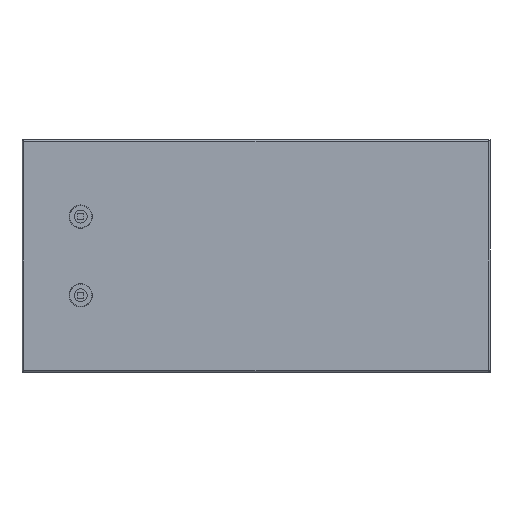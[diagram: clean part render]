
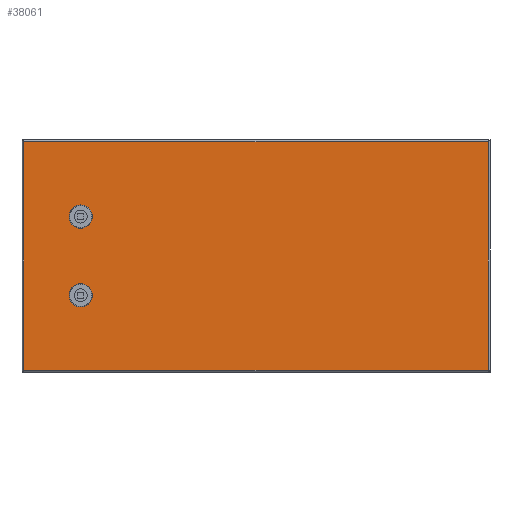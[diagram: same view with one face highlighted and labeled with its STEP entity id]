
A CAD part, top view. The second image highlights one B-rep face of the part: STEP entity #38061.
In plain terms, the highlighted planar face has unit normal (0, 0, 1).
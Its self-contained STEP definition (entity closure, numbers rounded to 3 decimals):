
#35626=CARTESIAN_POINT(' ',(591.7,145.2,0.));
#35631=DIRECTION(' ',(-1.,0.,0.));
#35636=VECTOR(' ',#35631,1.);
#35641=LINE('',#35626,#35636);
#35646=CARTESIAN_POINT(' ',(591.7,145.2,0.));
#35647=VERTEX_POINT(' ',#35646);
#35651=CARTESIAN_POINT(' ',(2.3,145.2,0.));
#35652=VERTEX_POINT(' ',#35651);
#35656=EDGE_CURVE(' ',#35647,#35652,#35641,.T.);
#37921=DIRECTION(' ',(-0.,-0.,1.));
#37926=CARTESIAN_POINT(' ',(591.7,-145.2,0.));
#37931=DIRECTION(' ',(0.,1.,0.));
#37936=AXIS2_PLACEMENT_3D(' ',#37926,#37921,#37931);
#37941=PLANE('NONE',#37936);
#37946=CARTESIAN_POINT(' ',(2.3,-145.2,0.));
#37951=DIRECTION(' ',(1.,0.,0.));
#37956=VECTOR(' ',#37951,1.);
#37961=LINE('',#37946,#37956);
#37966=CARTESIAN_POINT(' ',(2.3,-145.2,0.));
#37967=VERTEX_POINT(' ',#37966);
#37971=CARTESIAN_POINT(' ',(591.7,-145.2,0.));
#37972=VERTEX_POINT(' ',#37971);
#37976=EDGE_CURVE(' ',#37967,#37972,#37961,.T.);
#37981=ORIENTED_EDGE(' ',*,*,#37976,.T.);
#37986=CARTESIAN_POINT(' ',(591.7,145.2,0.));
#37991=DIRECTION(' ',(0.,-1.,0.));
#37996=VECTOR(' ',#37991,1.);
#38001=LINE('',#37986,#37996);
#38006=EDGE_CURVE(' ',#35647,#37972,#38001,.T.);
#38011=ORIENTED_EDGE(' ',*,*,#38006,.F.);
#38016=ORIENTED_EDGE(' ',*,*,#35656,.T.);
#38021=CARTESIAN_POINT(' ',(2.3,145.2,0.));
#38026=DIRECTION(' ',(0.,-1.,0.));
#38031=VECTOR(' ',#38026,1.);
#38036=LINE('',#38021,#38031);
#38041=EDGE_CURVE(' ',#35652,#37967,#38036,.T.);
#38046=ORIENTED_EDGE(' ',*,*,#38041,.T.);
#38051=EDGE_LOOP(' ',(#37981,#38011,#38016,#38046));
#38056=FACE_OUTER_BOUND(' ',#38051,.T.);
#38061=ADVANCED_FACE('NONE',(#38056),#37941,.T.);
